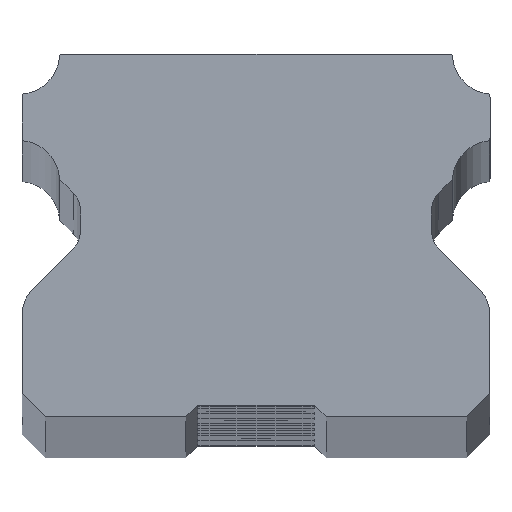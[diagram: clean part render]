
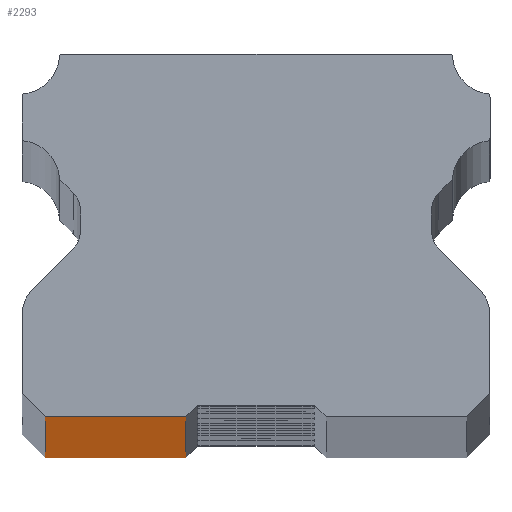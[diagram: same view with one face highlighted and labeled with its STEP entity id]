
A CAD part, top view. The second image highlights one B-rep face of the part: STEP entity #2293.
In plain terms, the highlighted planar face has unit normal (0, -1, 0).
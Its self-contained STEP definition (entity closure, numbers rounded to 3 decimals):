
#99 = DIRECTION ( 'NONE',  ( 0., 1., 0. ) ) ;
#197 = VECTOR ( 'NONE', #3435, 1000. ) ;
#324 = DIRECTION ( 'NONE',  ( 1., 0., 0. ) ) ;
#615 = VERTEX_POINT ( 'NONE', #777 ) ;
#635 = DIRECTION ( 'NONE',  ( -1., 0., 0. ) ) ;
#682 = EDGE_CURVE ( 'NONE', #1837, #615, #3368, .T. ) ;
#777 = CARTESIAN_POINT ( 'NONE',  ( -2.735, -7.498, 1000. ) ) ;
#869 = CARTESIAN_POINT ( 'NONE',  ( -2.735, -7.498, 0. ) ) ;
#881 = CARTESIAN_POINT ( 'NONE',  ( -8.735, -7.498, 1000. ) ) ;
#964 = ORIENTED_EDGE ( 'NONE', *, *, #3488, .F. ) ;
#1099 = LINE ( 'NONE', #2238, #2034 ) ;
#1127 = VECTOR ( 'NONE', #324, 1000. ) ;
#1152 = DIRECTION ( 'NONE',  ( 0., 0., -1. ) ) ;
#1168 = CARTESIAN_POINT ( 'NONE',  ( -8.735, -7.498, 1000. ) ) ;
#1330 = VERTEX_POINT ( 'NONE', #3566 ) ;
#1335 = ORIENTED_EDGE ( 'NONE', *, *, #1815, .T. ) ;
#1412 = VERTEX_POINT ( 'NONE', #869 ) ;
#1442 = ORIENTED_EDGE ( 'NONE', *, *, #1472, .T. ) ;
#1472 = EDGE_CURVE ( 'NONE', #1330, #1412, #3417, .T. ) ;
#1478 = FACE_OUTER_BOUND ( 'NONE', #2155, .T. ) ;
#1512 = CARTESIAN_POINT ( 'NONE',  ( -8.735, -7.498, 1000. ) ) ;
#1737 = CARTESIAN_POINT ( 'NONE',  ( -8.735, -7.498, 0. ) ) ;
#1815 = EDGE_CURVE ( 'NONE', #1837, #1330, #1099, .T. ) ;
#1837 = VERTEX_POINT ( 'NONE', #881 ) ;
#2034 = VECTOR ( 'NONE', #1152, 1000. ) ;
#2155 = EDGE_LOOP ( 'NONE', ( #1442, #964, #3633, #1335 ) ) ;
#2238 = CARTESIAN_POINT ( 'NONE',  ( -8.735, -7.498, 1000. ) ) ;
#2293 = ADVANCED_FACE ( 'NONE', ( #1478 ), #3185, .F. ) ;
#2484 = LINE ( 'NONE', #3097, #3109 ) ;
#2731 = AXIS2_PLACEMENT_3D ( 'NONE', #1512, #99, #635 ) ;
#2819 = DIRECTION ( 'NONE',  ( 0., 0., -1. ) ) ;
#3097 = CARTESIAN_POINT ( 'NONE',  ( -2.735, -7.498, 1000. ) ) ;
#3109 = VECTOR ( 'NONE', #2819, 1000. ) ;
#3185 = PLANE ( 'NONE',  #2731 ) ;
#3368 = LINE ( 'NONE', #1168, #1127 ) ;
#3417 = LINE ( 'NONE', #1737, #197 ) ;
#3435 = DIRECTION ( 'NONE',  ( 1., 0., 0. ) ) ;
#3488 = EDGE_CURVE ( 'NONE', #615, #1412, #2484, .T. ) ;
#3566 = CARTESIAN_POINT ( 'NONE',  ( -8.735, -7.498, 0. ) ) ;
#3633 = ORIENTED_EDGE ( 'NONE', *, *, #682, .F. ) ;
